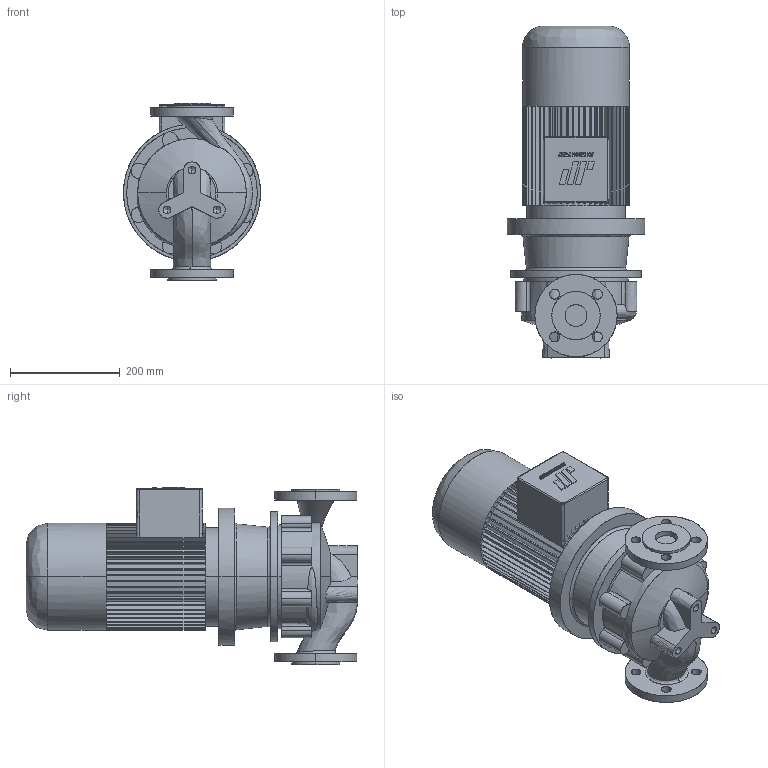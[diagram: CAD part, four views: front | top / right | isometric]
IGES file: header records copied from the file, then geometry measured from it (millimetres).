
Start section: CombiLine
Global section: file name: CLB_40-160_IEC100L_ND10.igs; native system:  By UGS Corp.; preprocessor: XPlus GENERIC/IGES 3.0; author: Stageplaats; organization: Johnson Pump Water B.V.; date: 20070716.105413; units: millimetre
Bounding box: 250 x 605 x 323 mm (x, y, z)
Surface area: 812667.4 mm2 (no closed solid volume)
Topology: 0 solids, 0 shells, 665 faces, 3827 edges, 3821 vertices
Faces by surface type: bspline 665
